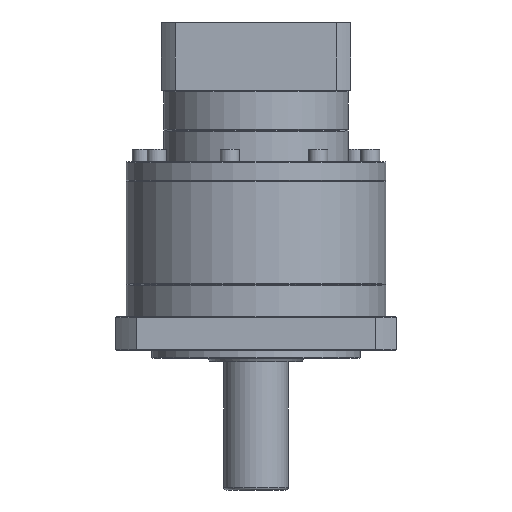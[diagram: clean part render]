
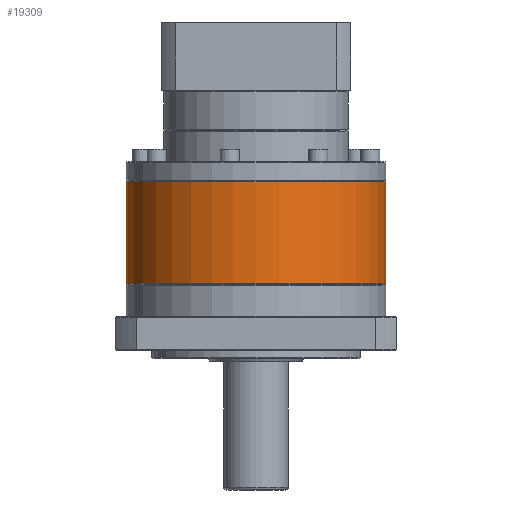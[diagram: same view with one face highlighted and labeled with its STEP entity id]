
A CAD part, front view. The second image highlights one B-rep face of the part: STEP entity #19309.
In plain terms, the highlighted cylindrical face has radius 81 mm (diameter 162 mm), a partial arc.
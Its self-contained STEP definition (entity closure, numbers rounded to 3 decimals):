
#3170 = DIRECTION ( 'NONE',  ( -1., 0., 0. ) ) ;
#3186 = CARTESIAN_POINT ( 'NONE',  ( -27.726, 59.557, -77.089 ) ) ;
#3386 = DIRECTION ( 'NONE',  ( 0., 0., -1. ) ) ;
#3923 = CARTESIAN_POINT ( 'NONE',  ( -108.726, 59.557, -77.089 ) ) ;
#4463 = CARTESIAN_POINT ( 'NONE',  ( -189.726, 59.557, -76.589 ) ) ;
#5843 = ORIENTED_EDGE ( 'NONE', *, *, #33222, .T. ) ;
#11846 = DIRECTION ( 'NONE',  ( 0., 0., -1. ) ) ;
#13283 = AXIS2_PLACEMENT_3D ( 'NONE', #22195, #47620, #3170 ) ;
#18965 = ORIENTED_EDGE ( 'NONE', *, *, #79253, .T. ) ;
#19309 = ADVANCED_FACE ( 'NONE', ( #25877 ), #105285, .T. ) ;
#21989 = LINE ( 'NONE', #4463, #40249 ) ;
#22195 = CARTESIAN_POINT ( 'NONE',  ( -108.726, 59.557, -140.589 ) ) ;
#25695 = ORIENTED_EDGE ( 'NONE', *, *, #107605, .F. ) ;
#25877 = FACE_OUTER_BOUND ( 'NONE', #50749, .T. ) ;
#29451 = VECTOR ( 'NONE', #11846, 1000. ) ;
#31722 = VERTEX_POINT ( 'NONE', #62287 ) ;
#33222 = EDGE_CURVE ( 'NONE', #42866, #31722, #45710, .T. ) ;
#36696 = DIRECTION ( 'NONE',  ( 0., 0., -1. ) ) ;
#39516 = ORIENTED_EDGE ( 'NONE', *, *, #39947, .T. ) ;
#39947 = EDGE_CURVE ( 'NONE', #74127, #62550, #60522, .T. ) ;
#40249 = VECTOR ( 'NONE', #3386, 1000. ) ;
#42866 = VERTEX_POINT ( 'NONE', #50649 ) ;
#45710 = CIRCLE ( 'NONE', #13283, 81. ) ;
#47620 = DIRECTION ( 'NONE',  ( 0., 0., 1. ) ) ;
#50649 = CARTESIAN_POINT ( 'NONE',  ( -189.726, 59.557, -140.589 ) ) ;
#50749 = EDGE_LOOP ( 'NONE', ( #25695, #39516, #18965, #5843 ) ) ;
#60522 = CIRCLE ( 'NONE', #90033, 81. ) ;
#61679 = CARTESIAN_POINT ( 'NONE',  ( -27.726, 59.557, -76.589 ) ) ;
#62287 = CARTESIAN_POINT ( 'NONE',  ( -27.726, 59.557, -140.589 ) ) ;
#62550 = VERTEX_POINT ( 'NONE', #102186 ) ;
#66027 = DIRECTION ( 'NONE',  ( -1., 0., 0. ) ) ;
#74127 = VERTEX_POINT ( 'NONE', #3186 ) ;
#75010 = LINE ( 'NONE', #61679, #29451 ) ;
#79253 = EDGE_CURVE ( 'NONE', #62550, #42866, #21989, .T. ) ;
#90033 = AXIS2_PLACEMENT_3D ( 'NONE', #3923, #36696, #94866 ) ;
#90725 = CARTESIAN_POINT ( 'NONE',  ( -108.726, 59.557, -76.589 ) ) ;
#92518 = AXIS2_PLACEMENT_3D ( 'NONE', #90725, #106413, #66027 ) ;
#94866 = DIRECTION ( 'NONE',  ( -1., 0., 0. ) ) ;
#102186 = CARTESIAN_POINT ( 'NONE',  ( -189.726, 59.557, -77.089 ) ) ;
#105285 = CYLINDRICAL_SURFACE ( 'NONE', #92518, 81. ) ;
#106413 = DIRECTION ( 'NONE',  ( 0., 0., -1. ) ) ;
#107605 = EDGE_CURVE ( 'NONE', #74127, #31722, #75010, .T. ) ;
